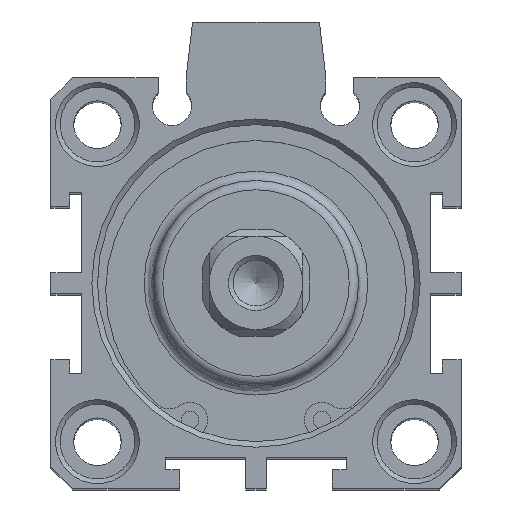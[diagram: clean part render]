
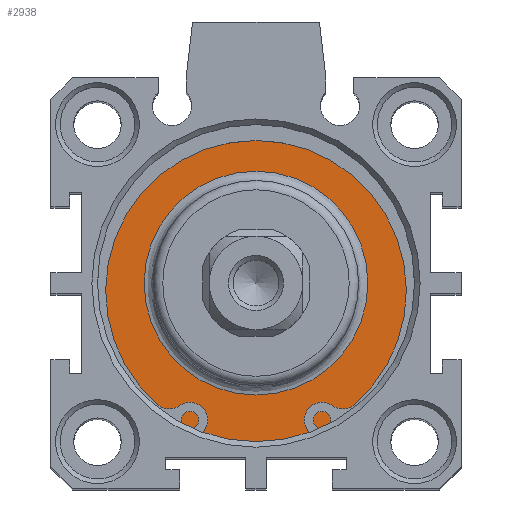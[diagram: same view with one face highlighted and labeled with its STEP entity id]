
A CAD part, top view. The second image highlights one B-rep face of the part: STEP entity #2938.
In plain terms, the highlighted planar face has unit normal (0, 0, 1).
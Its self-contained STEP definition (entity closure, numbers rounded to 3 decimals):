
#2887=CARTESIAN_POINT('',(-3.726,11.88,105.3));
#2888=VERTEX_POINT('',#2887);
#2889=CARTESIAN_POINT('',(-3.726,-0.12,105.3));
#2890=DIRECTION('',(0.0,0.0,1.0));
#2891=DIRECTION('',(0.0,-1.0,0.0));
#2892=AXIS2_PLACEMENT_3D('',#2889,#2890,#2891);
#2893=CIRCLE('',#2892,12.);
#2894=EDGE_CURVE('',#2888,#2888,#2893,.T.);
#2919=CARTESIAN_POINT('',(-3.726,13.88,105.3));
#2920=DIRECTION('',(0.0,0.0,1.0));
#2921=DIRECTION('',(1.0,0.0,0.0));
#2922=AXIS2_PLACEMENT_3D('',#2919,#2920,#2921);
#2923=PLANE('',#2922);
#2924=CARTESIAN_POINT('',(-3.726,16.88,105.3));
#2925=VERTEX_POINT('',#2924);
#2926=CARTESIAN_POINT('',(-3.726,-0.12,105.3));
#2927=DIRECTION('',(0.0,0.0,-1.0));
#2928=DIRECTION('',(0.0,1.0,0.0));
#2929=AXIS2_PLACEMENT_3D('',#2926,#2927,#2928);
#2930=CIRCLE('',#2929,17.);
#2931=EDGE_CURVE('',#2925,#2925,#2930,.T.);
#2932=ORIENTED_EDGE('',*,*,#2931,.F.);
#2933=EDGE_LOOP('',(#2932));
#2934=FACE_OUTER_BOUND('',#2933,.T.);
#2935=ORIENTED_EDGE('',*,*,#2894,.F.);
#2936=EDGE_LOOP('',(#2935));
#2937=FACE_BOUND('',#2936,.T.);
#2938=ADVANCED_FACE('',(#2934,#2937),#2923,.T.);
